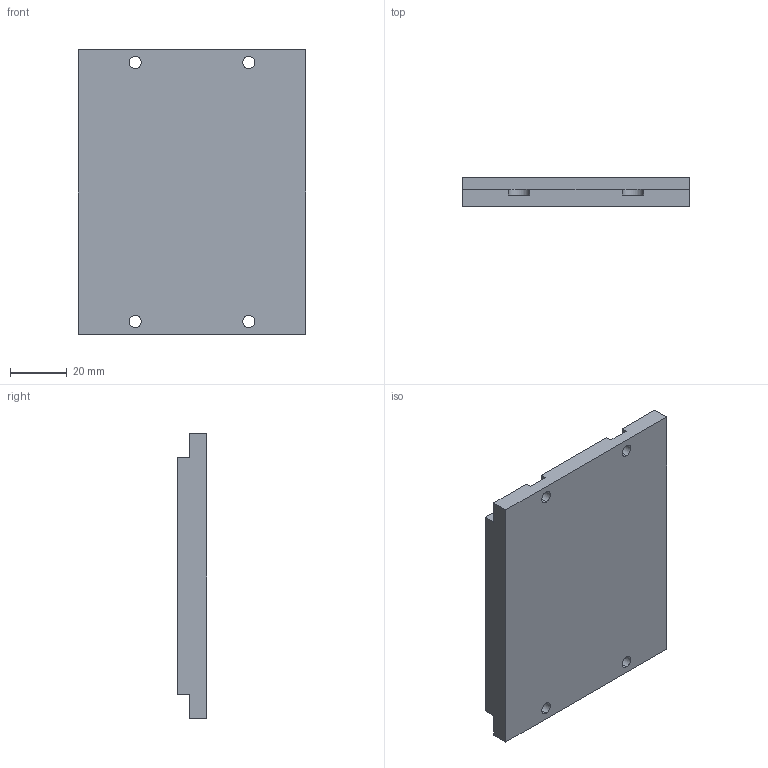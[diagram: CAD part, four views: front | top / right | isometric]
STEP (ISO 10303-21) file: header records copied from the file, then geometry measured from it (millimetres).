
FILE_DESCRIPTION (( 'STEP AP214' ), '1' );
FILE_NAME ('B-MJM080-L80.STEP', '2025-09-05T11:25:03', ( '' ), ( '' ), 'SwSTEP 2.0', 'SolidWorks 2016', '' );
FILE_SCHEMA (( 'AUTOMOTIVE_DESIGN' ));
Length unit declared in the file: millimetre
Products named in the file (1): B-MJM080-L80
Bounding box: 80 x 10.3 x 100 mm (x, y, z)
Volume: 76010.5 mm3; surface area: 19771.5 mm2
Topology: 1 solids, 1 shells, 36 faces, 102 edges, 68 vertices
Faces by surface type: plane 22, cylinder 14
Entity records: 1224 total; most frequent: CARTESIAN_POINT 207, DIRECTION 204, ORIENTED_EDGE 204, EDGE_CURVE 102, LINE 74, VECTOR 74, VERTEX_POINT 68, AXIS2_PLACEMENT_3D 65
